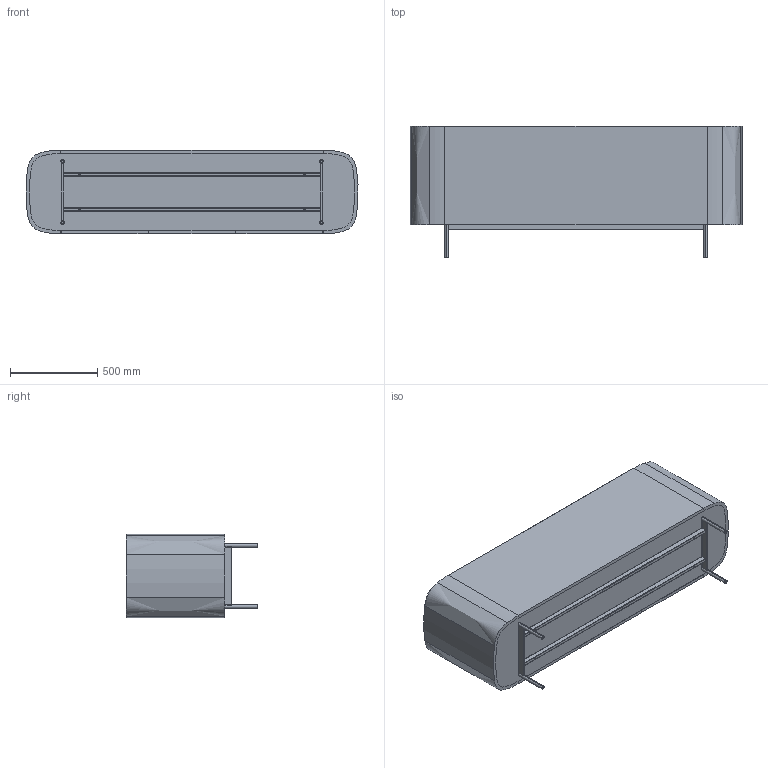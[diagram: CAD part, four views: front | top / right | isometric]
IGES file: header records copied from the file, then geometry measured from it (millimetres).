
Start section: SolidWorks IGES file using analytic representation for surfaces
Global section: file name: Y:\eforma\TECNICO\SOLIDWORKS\E-FORMA\6-MADIE\SYRA\02 parts\SY2WC_Syra_190x48x75.IGS; native system: SolidWorks 2022; preprocessor: SolidWorks 2022; author: eforma.tech; date: 240806.101622; units: millimetre
Bounding box: 1898.03 x 753.5 x 480 mm (x, y, z)
Volume: 103669376.9 mm3; surface area: 15133536.5 mm2
Topology: 23 solids, 23 shells, 449 faces, 1087 edges, 678 vertices
Faces by surface type: revolution 296, plane 133, bspline 20
